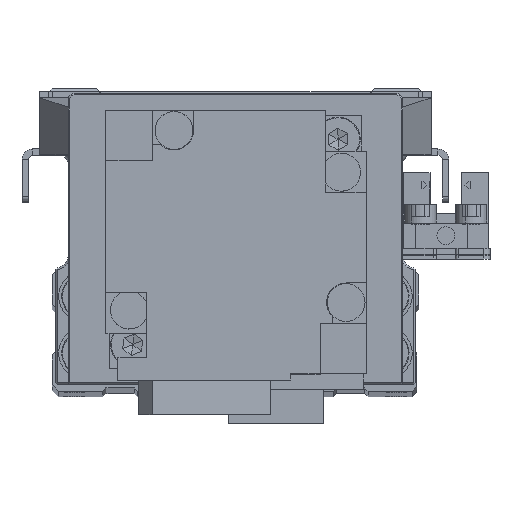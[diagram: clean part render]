
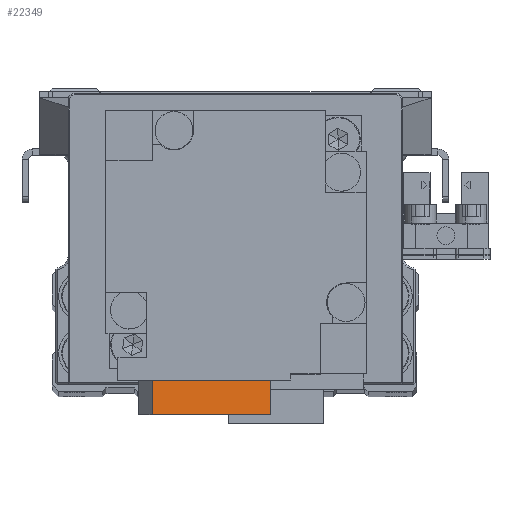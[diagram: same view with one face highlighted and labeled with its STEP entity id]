
A CAD part, top view. The second image highlights one B-rep face of the part: STEP entity #22349.
In plain terms, the highlighted planar face has unit normal (0.156, 0, 0.988) as drawn and (-0.156, 0, -0.988) by its records, which use the part's own axes.
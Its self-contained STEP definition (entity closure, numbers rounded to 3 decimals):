
#873 = CARTESIAN_POINT ( 'NONE',  ( 3.8, -27.5, -77.61 ) ) ;
#2730 = EDGE_CURVE ( 'NONE', #4193, #20281, #28203, .T. ) ;
#4193 = VERTEX_POINT ( 'NONE', #25439 ) ;
#4437 = DIRECTION ( 'NONE',  ( 0.988, 0., -0.156 ) ) ;
#4768 = ORIENTED_EDGE ( 'NONE', *, *, #10370, .T. ) ;
#5383 = DIRECTION ( 'NONE',  ( 0., 1., 0. ) ) ;
#5704 = DIRECTION ( 'NONE',  ( 0.988, 0., -0.156 ) ) ;
#8707 = PLANE ( 'NONE',  #26269 ) ;
#9252 = VECTOR ( 'NONE', #5383, 1000. ) ;
#10370 = EDGE_CURVE ( 'NONE', #35208, #19980, #19618, .T. ) ;
#10600 = CARTESIAN_POINT ( 'NONE',  ( -5.583, -24.75, -76.124 ) ) ;
#12155 = EDGE_CURVE ( 'NONE', #35208, #4193, #37908, .T. ) ;
#13058 = DIRECTION ( 'NONE',  ( 0.988, 0., -0.156 ) ) ;
#18279 = ORIENTED_EDGE ( 'NONE', *, *, #2730, .F. ) ;
#18476 = ORIENTED_EDGE ( 'NONE', *, *, #37279, .F. ) ;
#19618 = LINE ( 'NONE', #31771, #21194 ) ;
#19980 = VERTEX_POINT ( 'NONE', #26147 ) ;
#20186 = CARTESIAN_POINT ( 'NONE',  ( -5.583, -22., -76.124 ) ) ;
#20281 = VERTEX_POINT ( 'NONE', #22161 ) ;
#20541 = LINE ( 'NONE', #32704, #9252 ) ;
#20885 = CARTESIAN_POINT ( 'NONE',  ( 3.8, -24.75, -77.61 ) ) ;
#21194 = VECTOR ( 'NONE', #4437, 1000. ) ;
#22161 = CARTESIAN_POINT ( 'NONE',  ( 13.183, -27.5, -79.096 ) ) ;
#22349 = ADVANCED_FACE ( 'NONE', ( #36042 ), #8707, .F. ) ;
#22761 = DIRECTION ( 'NONE',  ( 0., -1., 0. ) ) ;
#24248 = EDGE_LOOP ( 'NONE', ( #18476, #18279, #31582, #4768 ) ) ;
#25439 = CARTESIAN_POINT ( 'NONE',  ( -5.583, -27.5, -76.124 ) ) ;
#26147 = CARTESIAN_POINT ( 'NONE',  ( 13.183, -22., -79.096 ) ) ;
#26269 = AXIS2_PLACEMENT_3D ( 'NONE', #20885, #33035, #5704 ) ;
#26393 = VECTOR ( 'NONE', #22761, 1000. ) ;
#28203 = LINE ( 'NONE', #873, #30966 ) ;
#30966 = VECTOR ( 'NONE', #13058, 1000. ) ;
#31582 = ORIENTED_EDGE ( 'NONE', *, *, #12155, .F. ) ;
#31771 = CARTESIAN_POINT ( 'NONE',  ( -5.583, -22., -76.124 ) ) ;
#32704 = CARTESIAN_POINT ( 'NONE',  ( 13.183, -24.75, -79.096 ) ) ;
#33035 = DIRECTION ( 'NONE',  ( 0.156, 0., 0.988 ) ) ;
#35208 = VERTEX_POINT ( 'NONE', #20186 ) ;
#36042 = FACE_OUTER_BOUND ( 'NONE', #24248, .T. ) ;
#37279 = EDGE_CURVE ( 'NONE', #20281, #19980, #20541, .T. ) ;
#37908 = LINE ( 'NONE', #10600, #26393 ) ;
